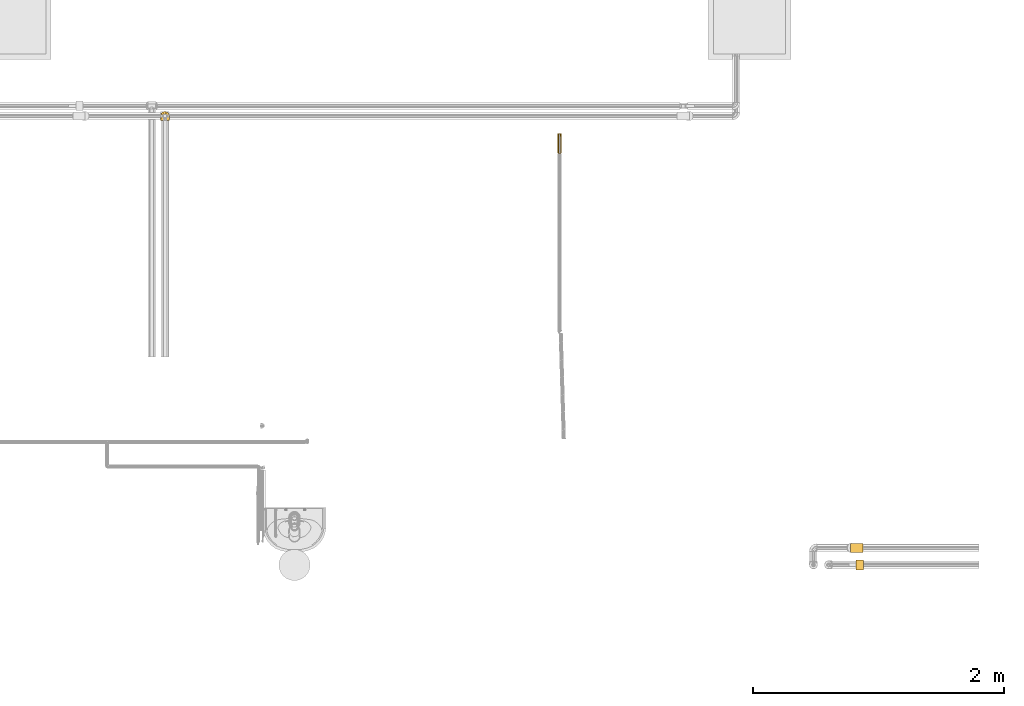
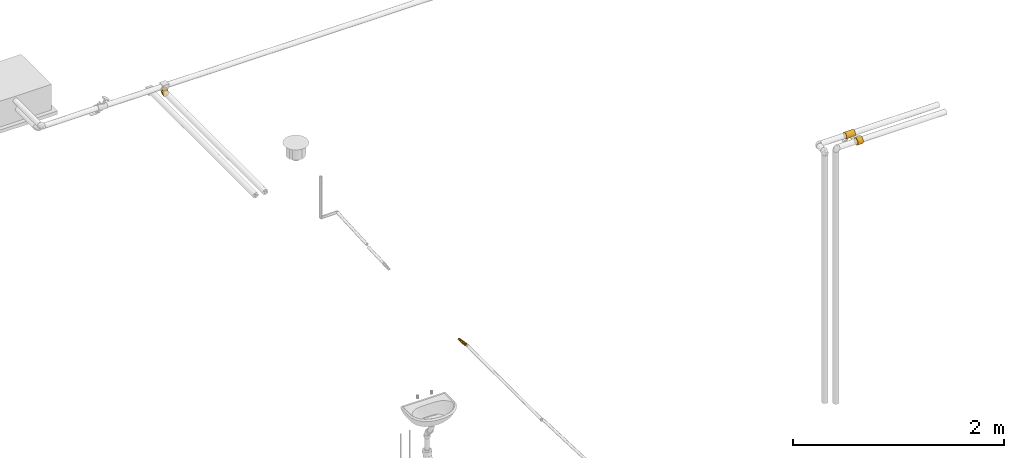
# One storey, part 15 of 108: 4 coverings.
"""IFC2X3 building model written with IfcOpenShell, lengths in millimetres."""

from ifc_helpers import new_model, entity, si_unit, converted_unit, derived_unit, direction, frame, origin_with_axes, place, context, subcontext, project, spatial, open_shell, faceted_brep, surface_model, source, transform, mapped, element, save


model = new_model("IFC2X3")

# Units and contexts
model_context = context("Model", 3, precision=0.01, world=frame((0.0, 4.29681676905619e-09, 0.0)), true_north=direction((4.01073788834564e-13, 1.0)))
plan_context = context("Plan", 3, precision=0.01, world=frame((0.0, 4.29681676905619e-09, 0.0)), true_north=direction((4.01073788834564e-13, 1.0)))
body_context = subcontext(model_context, "Body", "Model", "MODEL_VIEW")
ifc_project = project(units=[converted_unit("PLANEANGLEUNIT", "DEGREE", entity("IfcPositiveLengthMeasure", 0.0174532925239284), si_unit("PLANEANGLEUNIT", "RADIAN"), dimensions=[0, 0, 0, 0, 0, 0, 0]), si_unit("AREAUNIT", "SQUARE_METRE"), si_unit("LENGTHUNIT", "METRE", prefix="MILLI"), si_unit("MASSUNIT", "GRAM", prefix="KILO"), si_unit("POWERUNIT", "WATT"), si_unit("PRESSUREUNIT", "PASCAL", prefix="KILO"), si_unit("FORCEUNIT", "NEWTON", prefix="KILO"), si_unit("ELECTRICVOLTAGEUNIT", "VOLT"), si_unit("ELECTRICCURRENTUNIT", "AMPERE"), si_unit("THERMODYNAMICTEMPERATUREUNIT", "DEGREE_CELSIUS"), si_unit("TIMEUNIT", "SECOND"), si_unit("VOLUMEUNIT", "CUBIC_METRE"), derived_unit("LINEARVELOCITYUNIT", [(si_unit("LENGTHUNIT", "METRE"), 1), (si_unit("TIMEUNIT", "SECOND"), -1)]), derived_unit("VOLUMETRICFLOWRATEUNIT", [(si_unit("VOLUMEUNIT", "CUBIC_METRE"), 1), (si_unit("TIMEUNIT", "SECOND"), -1)]), derived_unit("THERMALTRANSMITTANCEUNIT", [(si_unit("POWERUNIT", "WATT"), 1), (si_unit("THERMODYNAMICTEMPERATUREUNIT", "KELVIN"), -1), (si_unit("AREAUNIT", "SQUARE_METRE"), -1)]), derived_unit("SOUNDPRESSUREUNIT", [(si_unit("PRESSUREUNIT", "PASCAL"), 1)])], contexts=[model_context, plan_context])

# Site, building, storey
site_placement = place(None, frame((0.0, -4.29681676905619e-09, 0.0), z_axis=(0.0, 0.0, 1.0), x_axis=(1.0, 0.0, 0.0)))
site = spatial("IfcSite", under=ifc_project, at=site_placement, CompositionType="ELEMENT")
building_placement = place(site_placement, frame((0.0, 4.29681676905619e-09, 0.0), z_axis=(0.0, 0.0, 1.0), x_axis=(1.0, 0.0, 0.0)))
building = spatial("IfcBuilding", under=site, at=building_placement, Name="mc-building", CompositionType="ELEMENT")
storey_placement = place(building_placement, frame((0.0, 0.0, 210200.0), z_axis=(0.0, 0.0, 1.0), x_axis=(1.0, 0.0, 0.0)))
storey = spatial("IfcBuildingStorey", under=building, at=storey_placement, Name="Nivå F - 0,7 m", CompositionType="ELEMENT", Elevation=210200.0)

# Coverings
shared_shape_1 = source(origin_with_axes(), body_context, "Body", "SurfaceModel", [
    surface_model("IfcShellBasedSurfaceModel", [(22.70412, -2.93443, -9.45315), (30.82754, 17.14194, -11.5315), (29.67052, 7.50965, 0.0), (-22.39127, -5.34157, -34.19685), (-16.9, 4.52834, -34.9), (-14.35747, -2.31465, -34.14594), (-5.39022, -12.68723, -28.1124), (-10.04575, -22.91431, -21.24577), (-19.55311, -19.37013, -27.68803), (-15.75431, -9.76614, -32.2434), (-25.61151, -12.63925, -32.2434), (14.15872, 12.78041, -29.55389), (17.60759, 23.84398, -29.55389), (22.82297, 19.20656, -24.68273), (-10.71417, 10.71417, -34.9), (-3.43914, 6.70807, -34.21293), (-1.67031, 27.56632, -34.9), (0.0, 33.8, -34.9), (7.76155, 33.8, -34.026), (24.21922, 8.37082, -18.57339), (-14.13479, -31.40484, -6.41296), (-33.8, -33.71081, -9.03278), (-16.62247, -29.97039, -13.35565), (34.0241, 33.8, -7.76986), (32.3281, 20.87017, 0.0), (-22.99023, -26.73038, -21.24577), (-33.8, -30.22429, -17.45), (-33.8, -24.67803, -24.67803), (-33.8, -17.45, -30.22429), (-33.8, -9.03278, -33.71081), (10.70705, -17.74845, -6.42363), (14.92935, -11.77225, -11.59189), (3.77801, 10.96751, -33.38511), (-4.52834, 16.9, -34.9), (10.08779, 22.48893, -32.9432), (27.28167, 33.8, -21.76512), (31.44116, 33.8, -15.14805), (28.3917, 21.75573, -18.57339), (21.75471, 33.8, -27.28997), (15.13749, 33.8, -31.44625), (4.64262, -1.60674, -29.61603), (-3.75515, -1.08911, -32.68215), (13.74683, 3.1687, -26.45779), (16.66676, -1.65326, -20.99963), (19.61193, -3.40705, -15.45025), (-0.36259, -25.53542, -6.39878), (-7.50965, -29.67052, 0.0), (3.63429, -22.22438, 0.0), (0.48499, -16.08618, -22.43712), (-5.04641, -26.12601, -12.28254), (14.77824, -14.77824, 0.0), (22.22438, -3.63429, 0.0), (-20.87017, -32.3281, 0.0), (9.85481, -12.14834, -18.52157), (7.86907, -7.22216, -24.68273), (-33.8, 0.0, -34.9), (-27.56632, 1.67031, -34.9), (34.9, 33.8, 0.0), (-33.8, -34.9, 0.0), (5.52911, -19.64914, -12.56526), (-33.8, -17.45, 30.22429), (-21.53214, -11.73191, 32.2434), (-33.8, -9.03278, 33.71081), (-14.14725, -31.36354, 6.63956), (8.35389, -17.87693, 11.67507), (22.7187, -2.91402, 9.44923), (-33.8, -33.71081, 9.03278), (22.8331, 19.20815, 24.67332), (28.39934, 21.76016, 18.56279), (27.28997, 33.8, 21.75471), (-12.52486, -16.96815, 27.68803), (-18.30533, -25.70372, 21.24577), (-1.54374, -19.21296, 20.48553), (14.17211, 12.78458, 29.54724), (17.61899, 23.84713, 29.54724), (10.09754, 22.48846, 32.93986), (15.78197, -6.65127, 17.50983), (-18.26576, -3.70298, 34.23253), (-16.9, 4.52834, 34.9), (-25.35, 2.26417, 34.9), (7.76986, 33.8, 34.0241), (-1.67031, 27.56632, 34.9), (-22.10448, -31.72214, 12.03906), (-33.8, -30.22429, 17.45), (0.0, 33.8, 34.9), (-33.8, -24.67803, 24.67803), (-24.11707, -20.38743, 27.68803), (15.14805, 33.8, 31.44116), (-0.04239, -25.33133, 6.50275), (30.83237, 17.14729, 11.52195), (-0.89086, -8.14115, 28.93661), (-13.3452, -8.12988, 32.44699), (24.22994, 8.37871, 18.56279), (21.76512, 33.8, 27.28167), (31.44625, 33.8, 15.13749), (34.026, 33.8, 7.76155), (-11.70385, 0.32927, 34.32548), (-4.48106, 4.94241, 34.11978), (-4.52834, 16.9, 34.9), (-10.71417, 10.71417, 34.9), (17.82362, 6.3191, 24.67359), (3.78013, 10.95456, 33.3825), (-26.18119, -5.85899, 34.27329), (7.89142, -7.21287, 24.67332), (6.12591, 1.3228, 30.09799), (-9.86336, -27.75297, 13.35565), (-0.55613, -13.82855, 25.06684), (-33.8, 0.0, 34.9), (-6.04254, -3.12111, 32.62611)], [open_shell([[[0, 1, 2]], [[3, 4, 5]], [[6, 7, 8]], [[9, 10, 3]], [[11, 12, 13]], [[14, 15, 5]], [[16, 17, 18]], [[19, 1, 0]], [[20, 21, 22]], [[1, 23, 24]], [[25, 26, 27]], [[28, 10, 8]], [[28, 8, 27]], [[26, 25, 22]], [[10, 28, 29]], [[0, 30, 31]], [[32, 33, 34]], [[16, 18, 34]], [[35, 36, 37]], [[13, 38, 35]], [[34, 33, 16]], [[34, 18, 39]], [[12, 34, 39]], [[40, 6, 41]], [[34, 11, 32]], [[42, 19, 43]], [[42, 13, 19]], [[31, 44, 0]], [[45, 46, 20]], [[1, 36, 23]], [[2, 1, 24]], [[19, 37, 1]], [[26, 22, 21]], [[37, 13, 35]], [[30, 47, 45]], [[38, 12, 39]], [[48, 49, 7]], [[50, 0, 51]], [[21, 20, 52]], [[53, 48, 54]], [[20, 49, 45]], [[6, 8, 9]], [[25, 8, 7]], [[29, 55, 56]], [[32, 11, 40]], [[32, 41, 15]], [[23, 57, 24]], [[1, 37, 36]], [[13, 37, 19]], [[13, 12, 38]], [[34, 12, 11]], [[41, 6, 9]], [[6, 54, 48]], [[5, 9, 3]], [[11, 42, 40]], [[52, 20, 46]], [[52, 58, 21]], [[45, 49, 59]], [[49, 20, 22]], [[45, 59, 30]], [[31, 30, 59]], [[50, 30, 0]], [[59, 53, 31]], [[43, 44, 53]], [[59, 49, 48]], [[43, 53, 54]], [[42, 43, 54]], [[19, 0, 44]], [[40, 42, 54]], [[13, 42, 11]], [[6, 40, 54]], [[32, 40, 41]], [[53, 44, 31]], [[19, 44, 43]], [[59, 48, 53]], [[6, 48, 7]], [[47, 30, 50]], [[47, 46, 45]], [[32, 15, 33]], [[7, 49, 22]], [[8, 25, 27]], [[22, 25, 7]], [[3, 29, 56]], [[8, 10, 9]], [[29, 3, 10]], [[4, 3, 56]], [[14, 5, 4]], [[41, 9, 5]], [[0, 2, 51]], [[5, 15, 41]], [[33, 15, 14]], [[60, 61, 62]], [[46, 63, 52]], [[64, 50, 65]], [[63, 66, 52]], [[67, 68, 69]], [[70, 71, 72]], [[73, 74, 75]], [[76, 72, 64]], [[77, 78, 79]], [[80, 81, 75]], [[82, 71, 83]], [[80, 84, 81]], [[85, 86, 60]], [[60, 86, 61]], [[87, 80, 75]], [[50, 64, 88]], [[65, 2, 89]], [[70, 90, 91]], [[92, 68, 67]], [[93, 67, 69]], [[66, 63, 82]], [[89, 94, 68]], [[89, 24, 95]], [[93, 87, 74]], [[77, 96, 78]], [[97, 98, 99]], [[100, 92, 67]], [[73, 75, 101]], [[75, 98, 101]], [[94, 89, 95]], [[83, 71, 85]], [[74, 67, 93]], [[65, 89, 92]], [[100, 67, 73]], [[65, 76, 64]], [[94, 69, 68]], [[65, 50, 51]], [[98, 75, 81]], [[61, 77, 102]], [[103, 104, 90]], [[104, 73, 101]], [[72, 71, 105]], [[86, 71, 70]], [[99, 96, 97]], [[104, 103, 100]], [[64, 72, 105]], [[106, 103, 90]], [[63, 88, 105]], [[65, 92, 76]], [[24, 89, 2]], [[24, 57, 95]], [[62, 102, 107]], [[89, 68, 92]], [[75, 74, 87]], [[67, 74, 73]], [[97, 104, 101]], [[96, 99, 78]], [[90, 104, 108]], [[66, 58, 52]], [[88, 63, 46]], [[63, 105, 82]], [[88, 46, 47]], [[105, 88, 64]], [[71, 82, 105]], [[83, 66, 82]], [[102, 77, 79]], [[91, 77, 61]], [[100, 76, 92]], [[50, 88, 47]], [[72, 76, 103]], [[107, 102, 79]], [[61, 102, 62]], [[104, 100, 73]], [[76, 100, 103]], [[91, 90, 108]], [[106, 70, 72]], [[71, 86, 85]], [[61, 86, 70]], [[70, 91, 61]], [[96, 91, 108]], [[91, 96, 77]], [[96, 108, 97]], [[104, 97, 108]], [[98, 97, 101]], [[70, 106, 90]], [[72, 103, 106]], [[51, 2, 65]]])]),
])
covering_1_placement = place(storey_placement, frame((338377.15721, 463903.47358, 2880.0), z_axis=(-1.0, 0.0, 0.0), x_axis=(0.0, 0.0, -1.0)))
element("IfcCovering", 1, at=covering_1_placement, inside=storey, Name="BI10T - Cellegummi 18-32 mm kalde rør", PredefinedType="INSULATION", context=body_context, shape_type="MappedRepresentation", body=[
    mapped(shared_shape_1, transform((0.0, 0.0, 0.0), scale=1.0)),
])
shared_shape_2 = source(origin_with_axes(), body_context, "Body", "SurfaceModel", [
    surface_model("IfcShellBasedSurfaceModel", [(29.0, 19.975, -34.59771), (29.0, 0.0, -39.95), (29.0, 10.33982, -38.58874), (29.0, 34.59771, -19.975), (29.0, 28.24892, -28.24892), (29.0, 38.58874, -10.33982), (29.0, 39.95, 0.0), (29.0, -19.975, -34.59771), (29.0, -10.33982, -38.58874), (29.0, -28.24892, -28.24892), (29.0, -38.58874, -10.33982), (29.0, -34.59771, -19.975), (29.0, 38.58874, 10.33982), (29.0, 34.59771, 19.975), (29.0, -28.24892, 28.24892), (29.0, 10.33982, 38.58874), (29.0, 28.24892, 28.24892), (29.0, 19.975, 34.59771), (29.0, -10.33982, 38.58874), (29.0, 0.0, 39.95), (29.0, -38.58874, 10.33982), (29.0, -34.59771, 19.975), (29.0, -39.95, 0.0), (29.0, -19.975, 34.59771), (-29.0, 10.33982, 38.58874), (-29.0, -28.24892, 28.24892), (-29.0, 0.0, 39.95), (-29.0, 38.58874, 10.33982), (-29.0, 19.975, 34.59771), (-29.0, 34.59771, 19.975), (-29.0, 28.24892, 28.24892), (-29.0, 34.59771, -19.975), (-29.0, -38.58874, 10.33982), (-29.0, -10.33982, 38.58874), (-29.0, -19.975, 34.59771), (-29.0, -34.59771, 19.975), (-29.0, -38.58874, -10.33982), (-29.0, -39.95, 0.0), (-29.0, 38.58874, -10.33982), (-29.0, 19.975, -34.59771), (-29.0, 28.24892, -28.24892), (-29.0, 10.33982, -38.58874), (-29.0, -28.24892, -28.24892), (-29.0, -34.59771, -19.975), (-29.0, 0.0, -39.95), (-29.0, -19.975, -34.59771), (-29.0, -10.33982, -38.58874), (-29.0, 39.95, 0.0)], [open_shell([[[0, 1, 2]], [[3, 0, 4]], [[1, 3, 5]], [[1, 0, 3]], [[6, 1, 5]], [[1, 7, 8]], [[7, 1, 9]], [[9, 10, 11]], [[10, 9, 1]], [[1, 6, 10]], [[6, 12, 10]], [[13, 14, 12]], [[15, 13, 16]], [[14, 13, 15]], [[15, 16, 17]], [[18, 15, 19]], [[20, 14, 21]], [[22, 10, 20]], [[14, 18, 23]], [[14, 20, 12]], [[18, 14, 15]], [[20, 10, 12]], [[24, 25, 26]], [[27, 24, 28]], [[29, 27, 28]], [[29, 28, 30]], [[31, 32, 24]], [[33, 25, 34]], [[33, 26, 25]], [[25, 32, 35]], [[24, 32, 25]], [[32, 36, 37]], [[31, 24, 27]], [[38, 31, 27]], [[32, 31, 39]], [[32, 39, 36]], [[39, 31, 40]], [[36, 39, 41]], [[36, 42, 43]], [[42, 36, 44]], [[45, 44, 46]], [[44, 45, 42]], [[36, 41, 44]], [[38, 27, 47]], [[47, 27, 12]], [[6, 47, 12]], [[29, 13, 12]], [[16, 13, 29]], [[27, 29, 12]], [[29, 30, 16]], [[17, 28, 24]], [[15, 24, 26]], [[16, 28, 17]], [[17, 24, 15]], [[26, 19, 15]], [[28, 16, 30]], [[18, 33, 34]], [[23, 34, 25]], [[19, 26, 18]], [[18, 26, 33]], [[34, 23, 18]], [[25, 14, 23]], [[21, 35, 32]], [[20, 32, 37]], [[14, 35, 21]], [[21, 32, 20]], [[37, 22, 20]], [[35, 14, 25]], [[10, 36, 43]], [[11, 43, 42]], [[37, 36, 22]], [[22, 36, 10]], [[43, 11, 10]], [[42, 9, 11]], [[7, 45, 46]], [[8, 46, 44]], [[9, 45, 7]], [[7, 46, 8]], [[44, 1, 8]], [[45, 9, 42]], [[2, 41, 39]], [[0, 39, 40]], [[44, 41, 1]], [[1, 41, 2]], [[39, 0, 2]], [[40, 4, 0]], [[3, 31, 38]], [[5, 38, 47]], [[4, 31, 3]], [[3, 38, 5]], [[47, 6, 5]], [[31, 4, 40]]])]),
])
covering_2_placement = place(storey_placement, frame((343918.74418, 460323.91341, 2545.47687000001), z_axis=(0.0, 0.0, 1.0), x_axis=(-1.0, 0.0, 0.0)))
element("IfcCovering", 2, at=covering_2_placement, inside=storey, Name="BI10T - Cellegummi 18-32 mm kalde rør", PredefinedType="INSULATION", context=body_context, shape_type="MappedRepresentation", body=[
    mapped(shared_shape_2, transform((0.0, 0.0, 0.0), scale=1.0)),
])
shared_shape_3 = source(origin_with_axes(), body_context, "Body", "SurfaceModel", [
    surface_model("IfcShellBasedSurfaceModel", [(48.5, 9.01984, -33.66252), (48.5, 17.425, -30.18099), (48.5, 24.64267, -24.64267), (48.5, 30.18099, -17.425), (48.5, -34.85, 0.0), (48.5, 33.66252, -9.01984), (48.5, -24.64267, -24.64267), (48.5, -33.66252, -9.01984), (48.5, 0.0, -34.85), (48.5, -17.425, -30.18099), (48.5, -9.01984, -33.66252), (48.5, -30.18099, -17.425), (48.5, 34.85, 0.0), (48.5, 33.66252, 9.01984), (48.5, 30.18099, 17.425), (48.5, 24.64267, 24.64267), (48.5, 9.01984, 33.66252), (48.5, -33.66252, 9.01984), (48.5, 17.425, 30.18099), (48.5, 0.0, 34.85), (48.5, -9.01984, 33.66252), (48.5, -24.64267, 24.64267), (48.5, -30.18099, 17.425), (48.5, -17.425, 30.18099), (-48.5, 24.64267, 24.64267), (-48.5, 0.0, 34.85), (-48.5, 9.01984, 33.66252), (-48.5, 17.425, 30.18099), (-48.5, 30.18099, 17.425), (-48.5, 33.66252, 9.01984), (-48.5, -9.01984, 33.66252), (-48.5, -24.64267, 24.64267), (-48.5, -17.425, 30.18099), (-48.5, -33.66252, 9.01984), (-48.5, -30.18099, 17.425), (-48.5, -34.85, 0.0), (-48.5, 33.66252, -9.01984), (-48.5, 30.18099, -17.425), (-48.5, -33.66252, -9.01984), (-48.5, 24.64267, -24.64267), (-48.5, 17.425, -30.18099), (-48.5, 9.01984, -33.66252), (-48.5, -24.64267, -24.64267), (-48.5, -30.18099, -17.425), (-48.5, -17.425, -30.18099), (-48.5, 0.0, -34.85), (-48.5, -9.01984, -33.66252), (-48.5, 34.85, 0.0)], [open_shell([[[0, 1, 2]], [[0, 2, 3]], [[4, 3, 5]], [[0, 3, 6]], [[4, 7, 3]], [[8, 9, 10]], [[9, 8, 6]], [[6, 7, 11]], [[6, 8, 0]], [[3, 7, 6]], [[4, 5, 12]], [[13, 14, 15]], [[4, 13, 15]], [[15, 16, 17]], [[16, 15, 18]], [[19, 20, 16]], [[17, 21, 22]], [[17, 4, 15]], [[21, 20, 23]], [[20, 21, 17]], [[16, 20, 17]], [[13, 4, 12]], [[24, 25, 26]], [[24, 26, 27]], [[24, 28, 29]], [[25, 24, 30]], [[30, 24, 29]], [[30, 31, 32]], [[31, 30, 33]], [[31, 33, 34]], [[30, 29, 33]], [[29, 35, 33]], [[29, 36, 35]], [[36, 37, 35]], [[35, 37, 38]], [[39, 40, 41]], [[39, 41, 37]], [[38, 37, 41]], [[38, 42, 43]], [[38, 41, 42]], [[44, 45, 46]], [[44, 42, 41]], [[45, 44, 41]], [[29, 47, 36]], [[28, 24, 14]], [[12, 47, 13]], [[29, 14, 13]], [[14, 29, 28]], [[47, 29, 13]], [[24, 15, 14]], [[18, 27, 26]], [[16, 26, 25]], [[15, 27, 18]], [[18, 26, 16]], [[25, 19, 16]], [[27, 15, 24]], [[20, 30, 32]], [[23, 32, 31]], [[25, 30, 19]], [[19, 30, 20]], [[32, 23, 20]], [[31, 21, 23]], [[22, 34, 33]], [[17, 33, 35]], [[21, 34, 22]], [[22, 33, 17]], [[35, 4, 17]], [[34, 21, 31]], [[7, 38, 43]], [[11, 43, 42]], [[35, 38, 4]], [[4, 38, 7]], [[43, 11, 7]], [[42, 6, 11]], [[9, 44, 46]], [[10, 46, 45]], [[6, 44, 9]], [[9, 46, 10]], [[45, 8, 10]], [[44, 6, 42]], [[0, 41, 40]], [[1, 40, 39]], [[45, 41, 8]], [[8, 41, 0]], [[40, 1, 0]], [[39, 2, 1]], [[3, 37, 36]], [[5, 36, 47]], [[2, 37, 3]], [[3, 36, 5]], [[47, 12, 5]], [[37, 2, 39]]])]),
])
covering_3_placement = place(storey_placement, frame((343894.49418, 460458.91341, 2545.5), z_axis=(0.0, 0.0, 1.0), x_axis=(-1.0, 0.0, 0.0)))
element("IfcCovering", 3, at=covering_3_placement, inside=storey, Name="BI10T - Cellegummi 18-32 mm kalde rør", PredefinedType="INSULATION", context=body_context, shape_type="MappedRepresentation", body=[
    mapped(shared_shape_3, transform((0.0, 0.0, 0.0), scale=1.0)),
])
covering_4_placement = place(storey_placement, frame((341524.45116, 463763.06991, -1006.49346999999), z_axis=(0.0, 0.157368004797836, 0.987540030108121), x_axis=(0.0, -0.987540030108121, 0.157368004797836)))
element("IfcCovering", 4, at=covering_4_placement, inside=storey, Name="BI10T - Cellegummi 18-32 mm kalde rør", PredefinedType="INSULATION", context=body_context, shape_type="Brep", body=[
    faceted_brep([(47.8011853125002, 5.90884651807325, -1.04188906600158), (41.2629619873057, 6.0, 0.0), (156.7, 6.0, 0.0), (156.7, 5.90884651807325, -1.04188906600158), (54.1407480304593, 5.63815572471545, -2.05212085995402), (156.7, 5.63815572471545, -2.05212085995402), (60.0890257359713, 5.19615242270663, -3.0), (156.7, 5.19615242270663, -3.0), (65.465283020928, 4.59626665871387, -3.85672565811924), (156.7, 4.59626665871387, -3.85672565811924), (70.1061650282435, 3.85672565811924, -4.59626665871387), (156.7, 3.85672565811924, -4.59626665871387), (73.8706609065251, 3.0, -5.19615242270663), (156.7, 3.0, -5.19615242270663), (76.644388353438, 2.05212085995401, -5.63815572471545), (156.7, 2.05212085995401, -5.63815572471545), (78.3430690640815, 1.04188906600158, -5.90884651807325), (156.7, 1.04188906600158, -5.90884651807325), (78.9150894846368, -1.10218211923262e-15, -6.0), (156.7, -1.10218211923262e-15, -6.0), (78.3430690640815, -1.04188906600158, -5.90884651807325), (156.7, -1.04188906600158, -5.90884651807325), (76.644388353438, -2.05212085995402, -5.63815572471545), (156.7, -2.05212085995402, -5.63815572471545), (73.870660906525, -3.0, -5.19615242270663), (156.7, -3.0, -5.19615242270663), (70.1061650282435, -3.85672565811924, -4.59626665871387), (156.7, -3.85672565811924, -4.59626665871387), (65.465283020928, -4.59626665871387, -3.85672565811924), (156.7, -4.59626665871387, -3.85672565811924), (60.0890257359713, -5.19615242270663, -3.0), (156.7, -5.19615242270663, -3.0), (54.1407480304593, -5.63815572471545, -2.05212085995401), (156.7, -5.63815572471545, -2.05212085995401), (47.8011853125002, -5.90884651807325, -1.04188906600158), (156.7, -5.90884651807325, -1.04188906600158), (41.2629619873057, -6.0, 7.34788079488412e-16), (156.7, -6.0, 7.34788079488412e-16), (34.7247386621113, -5.90884651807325, 1.04188906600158), (156.7, -5.90884651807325, 1.04188906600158), (28.3851759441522, -5.63815572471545, 2.05212085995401), (156.7, -5.63815572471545, 2.05212085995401), (22.4368982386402, -5.19615242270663, 3.0), (156.7, -5.19615242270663, 3.0), (17.0606409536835, -4.59626665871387, 3.85672565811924), (156.7, -4.59626665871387, 3.85672565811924), (12.419758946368, -3.85672565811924, 4.59626665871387), (156.7, -3.85672565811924, 4.59626665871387), (8.65526306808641, -3.0, 5.19615242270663), (156.7, -3.0, 5.19615242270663), (5.88153562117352, -2.05212085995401, 5.63815572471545), (156.7, -2.05212085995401, 5.63815572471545), (4.18285491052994, -1.04188906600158, 5.90884651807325), (156.7, -1.04188906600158, 5.90884651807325), (3.61083448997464, 3.67394039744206e-16, 6.0), (156.7, 3.67394039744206e-16, 6.0), (4.18285491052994, 1.04188906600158, 5.90884651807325), (156.7, 1.04188906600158, 5.90884651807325), (5.88153562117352, 2.05212085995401, 5.63815572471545), (156.7, 2.05212085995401, 5.63815572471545), (8.65526306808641, 3.0, 5.19615242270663), (156.7, 3.0, 5.19615242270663), (12.419758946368, 3.85672565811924, 4.59626665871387), (156.7, 3.85672565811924, 4.59626665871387), (17.0606409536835, 4.59626665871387, 3.85672565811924), (156.7, 4.59626665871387, 3.85672565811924), (22.4368982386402, 5.19615242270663, 3.0), (156.7, 5.19615242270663, 3.0), (28.3851759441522, 5.63815572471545, 2.05212085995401), (156.7, 5.63815572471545, 2.05212085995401), (34.7247386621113, 5.90884651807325, 1.04188906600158), (156.7, 5.90884651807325, 1.04188906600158), (41.2629619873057, 16.0, 0.0), (58.6982241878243, 15.7569240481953, -2.77837084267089), (156.7, 15.7569240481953, -2.77837084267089), (156.7, 16.0, 0.0), (23.8276997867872, 15.7569240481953, 2.77837084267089), (156.7, 15.7569240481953, 2.77837084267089), (6.922199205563, 15.0350819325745, 5.4723222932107), (156.7, 15.0350819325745, 5.4723222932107), (0.0, 14.5207086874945, 6.57539927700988), (156.7, 13.856406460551, 8.0), (0.0, 13.856406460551, 8.0), (156.7, 12.2567110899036, 10.2846017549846), (0.0, 12.2567110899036, 10.2846017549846), (156.7, 10.2846017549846, 12.2567110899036), (0.0, 10.2846017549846, 12.2567110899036), (156.7, 8.0, 13.856406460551), (0.0, 8.0, 13.856406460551), (156.7, 5.4723222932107, 15.0350819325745), (0.0, 5.4723222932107, 15.0350819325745), (156.7, 2.77837084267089, 15.7569240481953), (0.0, 2.77837084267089, 15.7569240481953), (156.7, 9.79717439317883e-16, 16.0), (0.0, 9.79717439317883e-16, 16.0), (156.7, -2.77837084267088, 15.7569240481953), (0.0, -2.77837084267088, 15.7569240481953), (156.7, -5.4723222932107, 15.0350819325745), (0.0, -5.4723222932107, 15.0350819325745), (156.7, -8.0, 13.856406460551), (0.0, -8.0, 13.856406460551), (156.7, -10.2846017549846, 12.2567110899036), (0.0, -10.2846017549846, 12.2567110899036), (156.7, -12.2567110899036, 10.2846017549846), (0.0, -12.2567110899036, 10.2846017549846), (156.7, -13.856406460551, 8.0), (0.0, -13.856406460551, 8.0), (6.922199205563, -15.0350819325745, 5.4723222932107), (0.0, -14.5207086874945, 6.57539927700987), (156.7, -15.0350819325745, 5.4723222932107), (23.8276997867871, -15.7569240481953, 2.77837084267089), (156.7, -15.7569240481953, 2.77837084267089), (41.2629619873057, -16.0, 1.95943487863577e-15), (156.7, -16.0, 1.95943487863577e-15), (58.6982241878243, -15.7569240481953, -2.77837084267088), (156.7, -15.7569240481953, -2.77837084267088), (75.6037247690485, -15.0350819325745, -5.4723222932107), (156.7, -15.0350819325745, -5.4723222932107), (91.4657986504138, -13.856406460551, -7.99999999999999), (156.7, -13.856406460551, -8.0), (105.802484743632, -12.2567110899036, -10.2846017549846), (156.7, -12.2567110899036, -10.2846017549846), (118.178170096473, -10.2846017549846, -12.2567110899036), (156.7, -10.2846017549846, -12.2567110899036), (128.216825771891, -8.00000000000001, -13.856406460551), (156.7, -8.00000000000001, -13.856406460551), (135.613432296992, -5.47232229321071, -15.0350819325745), (156.7, -5.47232229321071, -15.0350819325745), (140.143247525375, -2.77837084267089, -15.7569240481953), (156.7, -2.77837084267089, -15.7569240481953), (141.668635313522, -2.93915231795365e-15, -16.0), (156.7, -2.93915231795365e-15, -16.0), (140.143247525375, 2.77837084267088, -15.7569240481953), (156.7, 2.77837084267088, -15.7569240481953), (135.613432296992, 5.47232229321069, -15.0350819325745), (156.7, 5.47232229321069, -15.0350819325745), (128.216825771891, 8.0, -13.856406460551), (156.7, 8.0, -13.856406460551), (118.178170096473, 10.2846017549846, -12.2567110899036), (156.7, 10.2846017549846, -12.2567110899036), (105.802484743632, 12.2567110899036, -10.2846017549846), (156.7, 12.2567110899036, -10.2846017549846), (91.4657986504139, 13.856406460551, -8.00000000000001), (156.7, 13.856406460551, -8.00000000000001), (75.6037247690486, 15.0350819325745, -5.47232229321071), (156.7, 15.0350819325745, -5.47232229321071)], [[[0, 1, 2, 3]], [[4, 0, 3, 5]], [[6, 4, 5, 7]], [[8, 6, 7, 9]], [[10, 8, 9, 11]], [[12, 10, 11, 13]], [[14, 12, 13, 15]], [[16, 14, 15, 17]], [[18, 16, 17, 19]], [[20, 18, 19, 21]], [[22, 20, 21, 23]], [[24, 22, 23, 25]], [[26, 24, 25, 27]], [[28, 26, 27, 29]], [[30, 28, 29, 31]], [[32, 30, 31, 33]], [[34, 32, 33, 35]], [[36, 34, 35, 37]], [[38, 36, 37, 39]], [[40, 38, 39, 41]], [[42, 40, 41, 43]], [[44, 42, 43, 45]], [[46, 44, 45, 47]], [[48, 46, 47, 49]], [[50, 48, 49, 51]], [[52, 50, 51, 53]], [[54, 52, 53, 55]], [[56, 54, 55, 57]], [[58, 56, 57, 59]], [[60, 58, 59, 61]], [[62, 60, 61, 63]], [[64, 62, 63, 65]], [[66, 64, 65, 67]], [[68, 66, 67, 69]], [[70, 68, 69, 71]], [[1, 70, 71, 2]], [[72, 73, 74, 75]], [[76, 72, 75, 77]], [[78, 76, 77, 79]], [[80, 78, 79, 81, 82]], [[82, 81, 83, 84]], [[84, 83, 85, 86]], [[86, 85, 87, 88]], [[88, 87, 89, 90]], [[90, 89, 91, 92]], [[92, 91, 93, 94]], [[94, 93, 95, 96]], [[96, 95, 97, 98]], [[98, 97, 99, 100]], [[100, 99, 101, 102]], [[102, 101, 103, 104]], [[104, 103, 105, 106]], [[107, 108, 106, 105, 109]], [[110, 107, 109, 111]], [[112, 110, 111, 113]], [[114, 112, 113, 115]], [[116, 114, 115, 117]], [[118, 116, 117, 119]], [[120, 118, 119, 121]], [[122, 120, 121, 123]], [[124, 122, 123, 125]], [[126, 124, 125, 127]], [[128, 126, 127, 129]], [[130, 128, 129, 131]], [[132, 130, 131, 133]], [[134, 132, 133, 135]], [[136, 134, 135, 137]], [[138, 136, 137, 139]], [[140, 138, 139, 141]], [[142, 140, 141, 143]], [[144, 142, 143, 145]], [[73, 144, 145, 74]], [[108, 80, 82, 84, 86, 88, 90, 92, 94, 96, 98, 100, 102, 104, 106]], [[75, 74, 145, 143, 141, 139, 137, 135, 133, 131, 129, 127, 125, 123, 121, 119, 117, 115, 113, 111, 109, 105, 103, 101, 99, 97, 95, 93, 91, 89, 87, 85, 83, 81, 79, 77], [2, 71, 69, 67, 65, 63, 61, 59, 57, 55, 53, 51, 49, 47, 45, 43, 41, 39, 37, 35, 33, 31, 29, 27, 25, 23, 21, 19, 17, 15, 13, 11, 9, 7, 5, 3]], [[76, 78, 80, 108, 107, 110, 112, 114, 116, 118, 120, 122, 124, 126, 128, 130, 132, 134, 136, 138, 140, 142, 144, 73, 72], [4, 6, 8, 10, 12, 14, 16, 18, 20, 22, 24, 26, 28, 30, 32, 34, 36, 38, 40, 42, 44, 46, 48, 50, 52, 54, 56, 58, 60, 62, 64, 66, 68, 70, 1, 0]]], orient=[[False], [False], [False], [False], [False], [False], [False], [False], [False], [False], [False], [False], [False], [False], [False], [False], [False], [False], [False], [False], [False], [False], [False], [False], [False], [False], [False], [False], [False], [False], [False], [False], [False], [False], [False], [False], [False], [False], [False], [False], [False], [False], [False], [False], [False], [False], [False], [False], [False], [False], [False], [False], [False], [False], [False], [False], [False], [False], [False], [False], [False], [False], [False], [False], [False], [False], [False], [False], [False], [False], [False], [False], [False], [False, False], [False, False]]),
])

save(model, "model.ifc")
